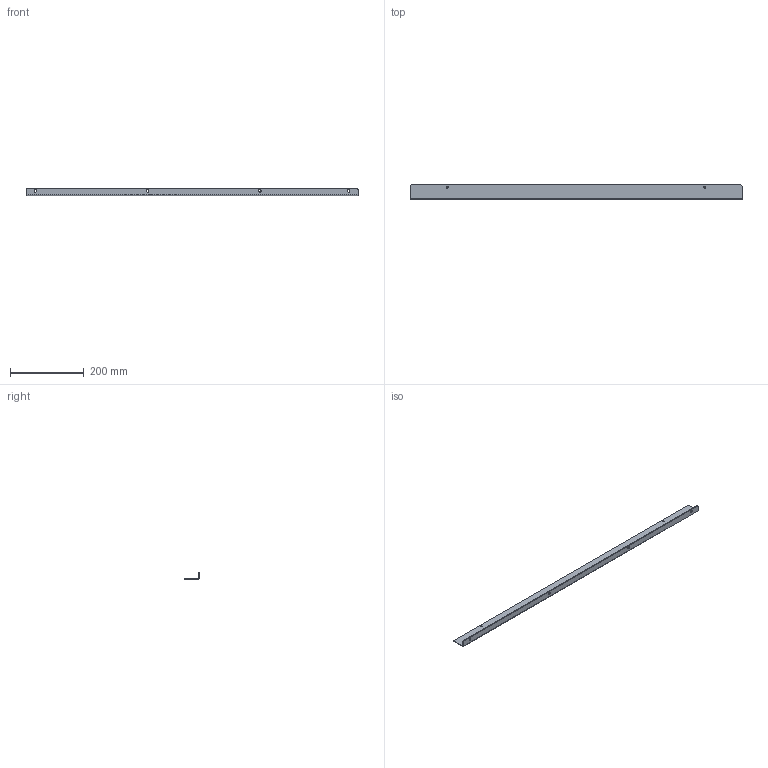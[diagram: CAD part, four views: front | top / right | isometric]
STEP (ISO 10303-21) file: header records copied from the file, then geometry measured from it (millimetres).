
FILE_DESCRIPTION((''),'2;1');
FILE_NAME('C:\Vault_Workspace\Inventor_Dwg\Inv-1\1100BA\WEBSITE\1100BA2036.stp','2015-02-02T15:06:36',('MichaelA'),(''),'Autodesk Inventor 2012','Autodesk Inventor 2012','');
FILE_SCHEMA(('AUTOMOTIVE_DESIGN { 1 0 10303 214 1 1 1 1 }'));
Length unit declared in the file: inch
Products named in the file (1): 1100BA-MASTER
Bounding box: 901.7 x 38.1 x 19.05 mm (x, y, z)
Volume: 69147.3 mm3; surface area: 101824.4 mm2
Topology: 1 solids, 1 shells, 24 faces, 58 edges, 36 vertices
Faces by surface type: cylinder 12, plane 12
Full cylindrical faces by diameter (mm): 4.496 x2, 7.137 x4
Entity records: 724 total; most frequent: DIRECTION 126, CARTESIAN_POINT 113, ORIENTED_EDGE 104, EDGE_CURVE 52, AXIS2_PLACEMENT_3D 49, EDGE_LOOP 42, VERTEX_POINT 36, VECTOR 28
